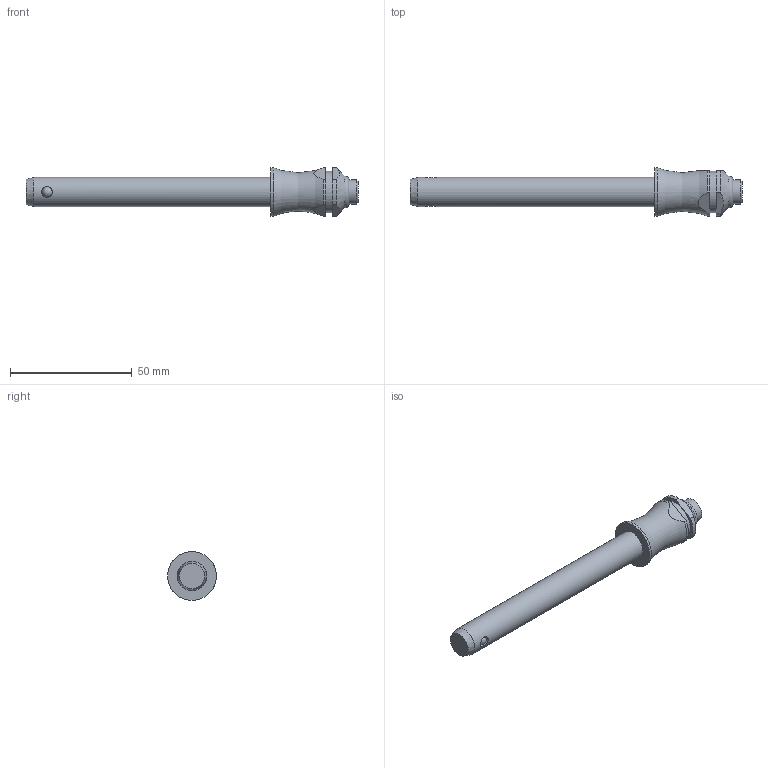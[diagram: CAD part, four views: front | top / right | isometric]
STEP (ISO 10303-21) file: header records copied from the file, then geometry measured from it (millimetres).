
FILE_DESCRIPTION( ( 'STEP AP203' ), '1' );
FILE_NAME( 'C:/Temp/Ganter_Step_05_03_2020/data/3_1/gn113_3/Stainless Steel-Ball lock pin GN 113.3-12-90 (activated).stp', '2020-03-12T08:18:48', ( 'License CC BY-ND 4.0' ), ( 'CADENAS' ), ' ', 'PARTsolutions', ' ' );
FILE_SCHEMA( ( 'CONFIG_CONTROL_DESIGN' ) );
Length unit declared in the file: millimetre
Products named in the file (1): _Stainless Steel-Ball lock pin GN 113.3-12-90 (activated)
Bounding box: 136.35 x 20 x 20 mm (x, y, z)
Volume: 18982.8 mm3; surface area: 6309.3 mm2
Topology: 1 solids, 1 shells, 30 faces, 72 edges, 45 vertices
Faces by surface type: cylinder 12, plane 11, cone 3, torus 2, sphere 2
Full cylindrical faces by diameter (mm): 4.4 x2, 10 x1, 12 x1, 17 x1, 20 x1
Entity records: 1010 total; most frequent: CARTESIAN_POINT 360, DIRECTION 130, ORIENTED_EDGE 102, AXIS2_PLACEMENT_3D 56, EDGE_CURVE 51, EDGE_LOOP 46, VERTEX_POINT 40, FACE_OUTER_BOUND 38
